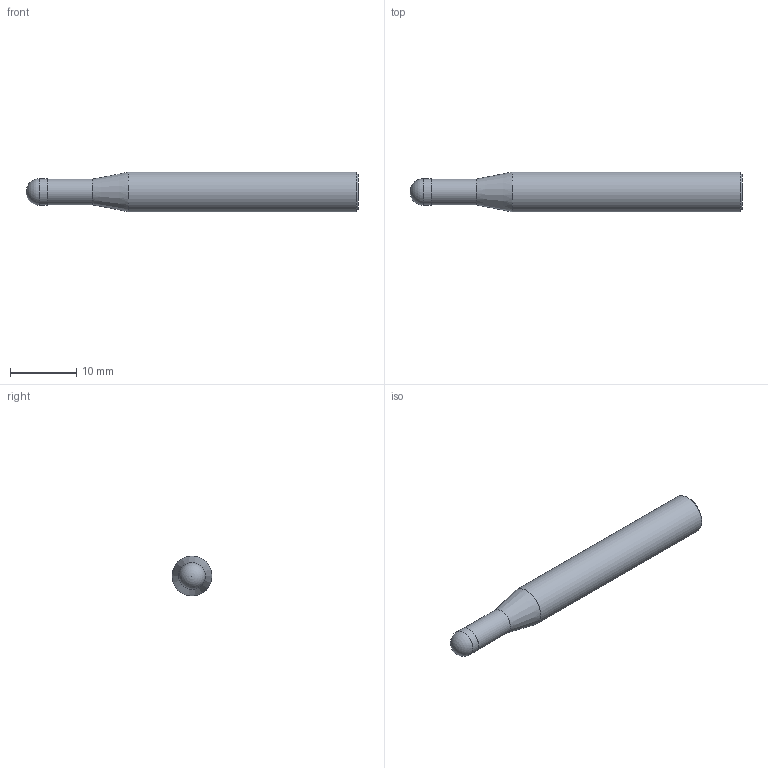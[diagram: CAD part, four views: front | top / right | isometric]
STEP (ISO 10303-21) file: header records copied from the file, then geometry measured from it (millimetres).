
FILE_DESCRIPTION(/* description */ (''),/* implementation_level */ '2;1');
FILE_NAME(/* name */ 'HSXB2040 0650.stp',/* time_stamp */ '2026-08-01T17:11:10+08:00',/* author */ (''),/* organization */ (''),/* preprocessor_version */ 'ST-DEVELOPER v16',/* originating_system */ 'SIEMENS PLM Software NX 10.0',/* authorisation */ '');
FILE_SCHEMA (('CONFIG_CONTROL_DESIGN'));
Length unit declared in the file: millimetre
Products named in the file (1): HSXB2040 0650_dxf
Bounding box: 50 x 6 x 6 mm (x, y, z)
Volume: 1196 mm3; surface area: 910.6 mm2
Topology: 2 solids, 2 shells, 9 faces, 15 edges, 9 vertices
Faces by surface type: plane 3, cylinder 3, cone 2, sphere 1
Full cylindrical faces by diameter (mm): 3.9 x1, 4 x1, 6 x1
Entity records: 246 total; most frequent: DIRECTION 34, CARTESIAN_POINT 24, AXIS2_PLACEMENT_3D 17, EDGE_LOOP 14, ORIENTED_EDGE 14, FACE_BOUND 10, ADVANCED_FACE 9, PERSON_AND_ORGANIZATION 7
